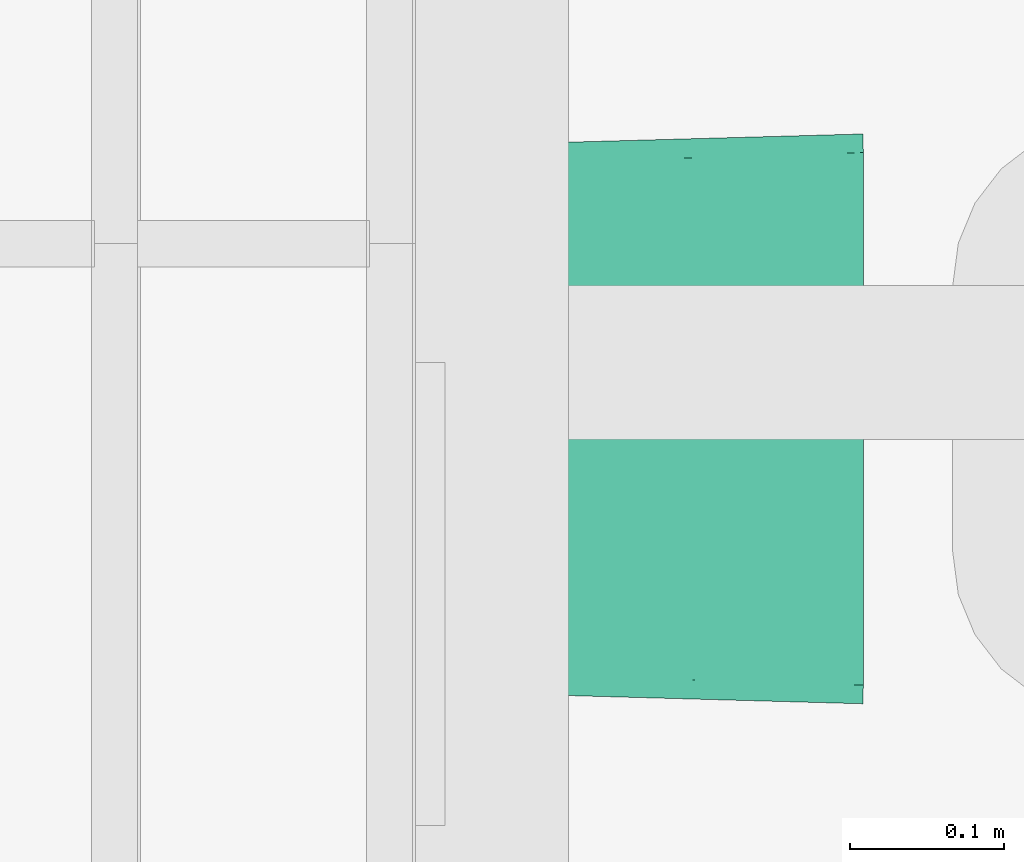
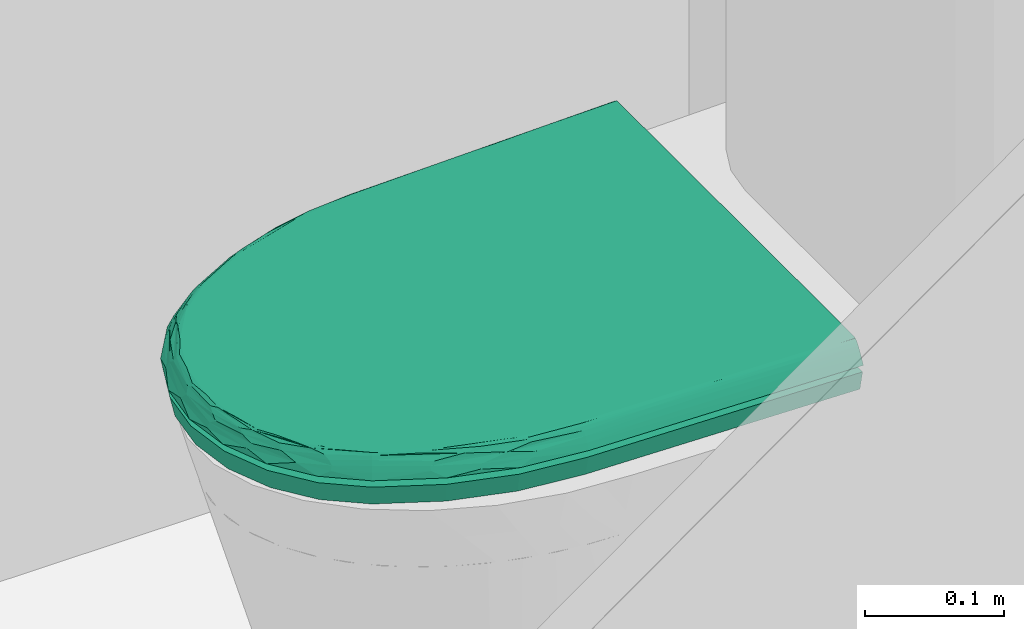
# One storey, part 62 of 75: 1 flow terminal.
"""IFC2X3 building model written with IfcOpenShell, lengths in metres."""

from ifc_helpers import new_model, entity, si_unit, converted_unit, derived_unit, direction, frame, origin, place, context, subcontext, project, spatial, faceted_brep, source, transform, mapped, material, type_object, type_shapes, element, save


model = new_model("IFC2X3")

# Units and contexts
model_context = context("Model", 3, precision=1e-05, world=origin(), true_north=direction((6.12303176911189e-17, 1.0)))
body_context = subcontext(model_context, "Body", "Model", "MODEL_VIEW")
ifc_project = project(units=[si_unit("LENGTHUNIT", "METRE"), si_unit("AREAUNIT", "SQUARE_METRE"), si_unit("VOLUMEUNIT", "CUBIC_METRE"), converted_unit("PLANEANGLEUNIT", "DEGREE", entity("IfcRatioMeasure", 0.0174532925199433), si_unit("PLANEANGLEUNIT", "RADIAN"), dimensions=[0, 0, 0, 0, 0, 0, 0]), si_unit("MASSUNIT", "GRAM", prefix="KILO"), derived_unit("MASSDENSITYUNIT", [(si_unit("MASSUNIT", "GRAM", prefix="KILO"), 1), (si_unit("LENGTHUNIT", "METRE"), -3)]), derived_unit("MOMENTOFINERTIAUNIT", [(si_unit("LENGTHUNIT", "METRE"), 4)]), si_unit("TIMEUNIT", "SECOND"), si_unit("FREQUENCYUNIT", "HERTZ"), si_unit("THERMODYNAMICTEMPERATUREUNIT", "DEGREE_CELSIUS"), derived_unit("THERMALTRANSMITTANCEUNIT", [(si_unit("MASSUNIT", "GRAM", prefix="KILO"), 1), (si_unit("THERMODYNAMICTEMPERATUREUNIT", "KELVIN"), -1), (si_unit("TIMEUNIT", "SECOND"), -3)]), derived_unit("VOLUMETRICFLOWRATEUNIT", [(si_unit("LENGTHUNIT", "METRE"), 3), (si_unit("TIMEUNIT", "SECOND"), -1)]), si_unit("ELECTRICCURRENTUNIT", "AMPERE"), si_unit("ELECTRICVOLTAGEUNIT", "VOLT"), si_unit("POWERUNIT", "WATT"), si_unit("FORCEUNIT", "NEWTON", prefix="KILO"), si_unit("ILLUMINANCEUNIT", "LUX"), si_unit("LUMINOUSFLUXUNIT", "LUMEN"), si_unit("LUMINOUSINTENSITYUNIT", "CANDELA"), derived_unit("USERDEFINED", [(si_unit("MASSUNIT", "GRAM", prefix="KILO"), -1), (si_unit("LENGTHUNIT", "METRE"), -2), (si_unit("TIMEUNIT", "SECOND"), 3), (si_unit("LUMINOUSFLUXUNIT", "LUMEN"), 1)]), derived_unit("LINEARVELOCITYUNIT", [(si_unit("LENGTHUNIT", "METRE"), 1), (si_unit("TIMEUNIT", "SECOND"), -1)]), si_unit("PRESSUREUNIT", "PASCAL"), derived_unit("USERDEFINED", [(si_unit("LENGTHUNIT", "METRE"), -2), (si_unit("MASSUNIT", "GRAM", prefix="KILO"), 1), (si_unit("TIMEUNIT", "SECOND"), -2)]), derived_unit("LINEARFORCEUNIT", [(si_unit("MASSUNIT", "GRAM", prefix="KILO"), 1), (si_unit("LENGTHUNIT", "METRE"), 1), (si_unit("TIMEUNIT", "SECOND"), -2), (si_unit("LENGTHUNIT", "METRE"), -1)]), derived_unit("PLANARFORCEUNIT", [(si_unit("MASSUNIT", "GRAM", prefix="KILO"), 1), (si_unit("LENGTHUNIT", "METRE"), 1), (si_unit("TIMEUNIT", "SECOND"), -2), (si_unit("LENGTHUNIT", "METRE"), -2)])], contexts=[model_context])

# Site, building, storey
site_placement = place(None, origin())
site = spatial("IfcSite", under=ifc_project, at=site_placement, Name="Superficie", CompositionType="ELEMENT")
building_placement = place(site_placement, origin())
building = spatial("IfcBuilding", under=site, at=building_placement, Name="Telegestiones", CompositionType="ELEMENT")
storey_placement = place(building_placement, origin())
storey = spatial("IfcBuildingStorey", under=building, at=storey_placement, Name="Nivel 0_NPT", CompositionType="ELEMENT", Elevation=0.0)

# Flow terminal
ifc_material = material(Name="Plastico - Ferrum - Urea - Blanco")
distribution_element_type = type_object("IfcDistributionElementType", Name="Inodoro-Ferrum-Marina-Tapa_y_Asiento:Tapa de Inodoro", material=ifc_material)
shared_shape = source(origin(), body_context, "Body", "Brep", [
    faceted_brep([(0.001595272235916, 0.456635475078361, 0.024059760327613), (0.00438804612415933, 0.456713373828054, 0.0292542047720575), (0.0069939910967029, 0.45678606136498, 0.0335042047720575), (0.00941310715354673, 0.456853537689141, 0.036809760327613), (0.0116453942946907, 0.456915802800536, 0.0391708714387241), (0.0136908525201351, 0.456972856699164, 0.0405875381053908), (0.0155494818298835, 0.457024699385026, 0.041059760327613), (0.0155494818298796, 0.457024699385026, 0.0240597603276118), (0.356866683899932, 0.457024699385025, 0.024059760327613), (0.356866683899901, 0.457024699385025, 0.041059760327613), (0.358725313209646, 0.456972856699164, 0.0405875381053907), (0.36077077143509, 0.456915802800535, 0.0391708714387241), (0.363003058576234, 0.456853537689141, 0.036809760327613), (0.365422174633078, 0.45678606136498, 0.0335042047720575), (0.368028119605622, 0.456713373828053, 0.0292542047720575), (0.370820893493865, 0.456635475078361, 0.024059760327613), (0.0165302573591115, 0.421862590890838, 0.041059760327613), (0.0178998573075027, 0.372760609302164, 0.041059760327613), (0.0198614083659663, 0.302436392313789, 0.041059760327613), (0.0218229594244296, 0.23211217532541, 0.0410597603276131), (0.027695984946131, 0.180536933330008, 0.0410597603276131), (0.0422596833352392, 0.130713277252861, 0.0410597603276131), (0.0650892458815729, 0.0840945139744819, 0.041059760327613), (0.0876065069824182, 0.055650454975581, 0.041059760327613), (0.116624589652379, 0.0338779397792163, 0.041059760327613), (0.150230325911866, 0.0202124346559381, 0.0410597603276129), (0.186208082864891, 0.0155549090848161, 0.0410597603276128), (0.222185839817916, 0.0202124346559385, 0.0410597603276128), (0.255791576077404, 0.0338779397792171, 0.0410597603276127), (0.284809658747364, 0.0556504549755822, 0.0410597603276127), (0.307326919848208, 0.0840945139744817, 0.0410597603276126), (0.330156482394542, 0.130713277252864, 0.0410597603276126), (0.34472018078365, 0.180536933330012, 0.0410597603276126), (0.350593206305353, 0.232112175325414, 0.0410597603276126), (0.351573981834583, 0.267274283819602, 0.041059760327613), (0.352943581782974, 0.316376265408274, 0.041059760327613), (0.354905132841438, 0.38670048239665, 0.041059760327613), (0.359621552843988, 0.29306195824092, 0.0352750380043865), (0.361625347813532, 0.274753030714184, 0.0314972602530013), (0.36307674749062, 0.326787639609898, 0.0314972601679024), (0.365222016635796, 0.403698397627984, 0.0314972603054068), (0.362298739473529, 0.389042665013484, 0.0352750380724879), (0.357834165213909, 0.389167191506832, 0.0399972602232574), (0.356913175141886, 0.410045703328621, 0.0408017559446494), (0.357025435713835, 0.344476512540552, 0.0396759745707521), (0.360402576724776, 0.404507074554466, 0.0381083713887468), (0.353536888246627, 0.291789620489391, 0.0408295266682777), (0.355341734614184, 0.299810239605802, 0.0399972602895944), (0.357035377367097, 0.283788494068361, 0.0381083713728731), (0.352451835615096, 0.232060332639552, 0.0405875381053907), (0.356729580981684, 0.231941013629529, 0.0368097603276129), (0.35449729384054, 0.232003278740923, 0.039170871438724), (0.365723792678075, 0.350304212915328, 0.028075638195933), (0.366508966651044, 0.302047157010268, 0.024059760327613), (0.368470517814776, 0.372371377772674, 0.024059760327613), (0.355332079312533, 0.348898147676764, 0.0407542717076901), (0.364180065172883, 0.300719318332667, 0.0283642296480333), (0.359148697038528, 0.231873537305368, 0.0335042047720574), (0.361754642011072, 0.231800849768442, 0.0292542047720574), (0.367244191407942, 0.398171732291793, 0.0277403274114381), (0.36964570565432, 0.414503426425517, 0.024059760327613), (0.360553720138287, 0.34106364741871, 0.0358205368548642), (0.358726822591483, 0.344429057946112, 0.0381083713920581), (0.364547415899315, 0.231722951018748, 0.024059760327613), (0.358404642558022, 0.177778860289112, 0.024059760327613), (0.34317203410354, 0.125666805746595, 0.024059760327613), (0.31929391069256, 0.076906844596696, 0.0240597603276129), (0.294551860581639, 0.0456524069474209, 0.0240597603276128), (0.262666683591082, 0.0217286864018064, 0.0240597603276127), (0.225740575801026, 0.00671297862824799, 0.0240597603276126), (0.18620808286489, 0.00159527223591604, 0.0240597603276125), (0.146675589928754, 0.00671297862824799, 0.0240597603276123), (0.109749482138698, 0.0217286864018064, 0.0240597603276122), (0.077864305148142, 0.0456524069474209, 0.0240597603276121), (0.0531222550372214, 0.0769068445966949, 0.024059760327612), (0.029244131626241, 0.125666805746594, 0.0240597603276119), (0.0140115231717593, 0.17777886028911, 0.0240597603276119), (0.00786874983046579, 0.231722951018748, 0.0240597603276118), (0.00669356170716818, 0.273855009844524, 0.024059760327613), (0.00551837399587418, 0.315987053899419, 0.024059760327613), (0.00355682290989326, 0.38631127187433, 0.024059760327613), (0.348766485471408, 0.19184404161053, 0.0405359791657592), (0.349863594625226, 0.189923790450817, 0.0396286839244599), (0.310675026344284, 0.0820835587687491, 0.039170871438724), (0.312589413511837, 0.0809337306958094, 0.0368097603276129), (0.339580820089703, 0.141992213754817, 0.0380822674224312), (0.316898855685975, 0.0783453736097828, 0.0292542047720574), (0.334448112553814, 0.116810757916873, 0.0324641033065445), (0.314664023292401, 0.0796876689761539, 0.0335042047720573), (0.351727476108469, 0.191045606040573, 0.0380922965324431), (0.350466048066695, 0.172235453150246, 0.035239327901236), (0.357674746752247, 0.188271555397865, 0.0289584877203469), (0.348361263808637, 0.152432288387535, 0.0307862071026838), (0.336324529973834, 0.116342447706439, 0.0292921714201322), (0.3340712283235, 0.120766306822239, 0.0352481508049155), (0.349702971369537, 0.149947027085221, 0.0272890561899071), (0.328370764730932, 0.122507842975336, 0.0407801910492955), (0.308920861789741, 0.0831371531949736, 0.0405875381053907), (0.340839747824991, 0.154630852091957, 0.0402739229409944), (0.326302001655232, 0.114016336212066, 0.039960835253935), (0.356097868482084, 0.191008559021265, 0.0323074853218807), (0.206137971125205, 0.00469480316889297, 0.0274750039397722), (0.0918736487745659, 0.0448195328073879, 0.0379312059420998), (0.0617411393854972, 0.0820835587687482, 0.0391708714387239), (0.0598267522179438, 0.0809337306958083, 0.0368097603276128), (0.271117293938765, 0.042209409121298, 0.0407977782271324), (0.242566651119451, 0.0257569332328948, 0.0407855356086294), (0.239485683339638, 0.0226589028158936, 0.0398351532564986), (0.281086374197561, 0.0481515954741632, 0.0399058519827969), (0.197949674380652, 0.0122613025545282, 0.0392893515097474), (0.20434819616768, 0.0150990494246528, 0.0407002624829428), (0.168067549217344, 0.0144776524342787, 0.0403940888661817), (0.170441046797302, 0.00822595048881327, 0.034090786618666), (0.166278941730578, 0.00570428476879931, 0.0292662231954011), (0.206136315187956, 0.00691960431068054, 0.0313090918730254), (0.127777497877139, 0.0157377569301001, 0.0287773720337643), (0.292755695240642, 0.0621048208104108, 0.0408263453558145), (0.0960686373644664, 0.043351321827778, 0.0393951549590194), (0.132914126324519, 0.0216644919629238, 0.0390716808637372), (0.101228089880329, 0.0411914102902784, 0.0403940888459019), (0.290126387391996, 0.0537118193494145, 0.0379796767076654), (0.279094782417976, 0.0365256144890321, 0.0300373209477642), (0.298002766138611, 0.0556782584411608, 0.0320683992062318), (0.294844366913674, 0.0552482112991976, 0.0351018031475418), (0.299417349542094, 0.0541811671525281, 0.0285967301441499), (0.127833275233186, 0.0186776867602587, 0.0332865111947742), (0.166466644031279, 0.0116486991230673, 0.037846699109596), (0.170334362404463, 0.0127334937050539, 0.0393546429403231), (0.244637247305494, 0.0158147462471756, 0.0289041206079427), (0.262322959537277, 0.0324450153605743, 0.0385687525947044), (0.0634953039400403, 0.0831371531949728, 0.0405875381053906), (0.0809354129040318, 0.0605511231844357, 0.0407924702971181), (0.0874076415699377, 0.0421879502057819, 0.0311281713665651), (0.0732843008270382, 0.0535465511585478, 0.0282099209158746), (0.0959605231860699, 0.0328608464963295, 0.0276535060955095), (0.0786474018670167, 0.0607623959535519, 0.0399426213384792), (0.132957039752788, 0.024235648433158, 0.0407002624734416), (0.0577521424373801, 0.0796876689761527, 0.0335042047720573), (0.0807690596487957, 0.0519072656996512, 0.0350760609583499), (0.132771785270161, 0.0192933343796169, 0.0366404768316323), (0.235685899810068, 0.0169871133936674, 0.0356307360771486), (0.266675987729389, 0.0315725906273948, 0.0348948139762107), (0.231657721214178, 0.0178496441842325, 0.038162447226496), (0.106545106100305, 0.0314888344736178, 0.035394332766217), (0.0555173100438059, 0.0783453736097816, 0.0292542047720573), (0.245448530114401, 0.0186226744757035, 0.0326873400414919), (0.204351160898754, 0.0105368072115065, 0.0368097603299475), (0.210021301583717, 0.00948524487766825, 0.0343542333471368), (0.0449403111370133, 0.119006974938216, 0.0405359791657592), (0.0429816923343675, 0.120034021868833, 0.0396286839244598), (0.0179188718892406, 0.232003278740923, 0.0391708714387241), (0.0156865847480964, 0.231941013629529, 0.036809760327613), (0.0258300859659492, 0.165957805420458, 0.0380822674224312), (0.0106615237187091, 0.231800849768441, 0.0292542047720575), (0.0165922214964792, 0.189939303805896, 0.0324641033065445), (0.0132674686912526, 0.231873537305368, 0.0335042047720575), (0.0420154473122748, 0.118084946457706, 0.0380922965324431), (0.0329472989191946, 0.134613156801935, 0.035239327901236), (0.0355103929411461, 0.117219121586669, 0.0289584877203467), (0.0240549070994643, 0.152432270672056, 0.0307862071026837), (0.0147589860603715, 0.189323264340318, 0.0292921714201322), (0.0190401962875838, 0.186809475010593, 0.0352481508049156), (0.0215858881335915, 0.153803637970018, 0.0272890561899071), (0.0247811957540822, 0.1884123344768, 0.0407801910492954), (0.019964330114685, 0.232060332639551, 0.0405875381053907), (0.0315764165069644, 0.154630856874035, 0.0402739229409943), (0.0219508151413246, 0.196681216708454, 0.039960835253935), (0.0383131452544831, 0.115762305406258, 0.0323074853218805), (0.00993267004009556, 0.395666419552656, 0.0352750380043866), (0.00691140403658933, 0.413835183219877, 0.0314972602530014), (0.00836280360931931, 0.361800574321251, 0.0314972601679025), (0.0170744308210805, 0.299810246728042, 0.0399972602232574), (0.0191578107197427, 0.279015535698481, 0.0408017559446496), (0.0153907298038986, 0.344476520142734, 0.0396759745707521), (0.0153650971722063, 0.284351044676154, 0.0381083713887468), (0.0159369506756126, 0.397275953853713, 0.0408295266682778), (0.0126098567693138, 0.299685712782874, 0.0352750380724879), (0.0145820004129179, 0.389167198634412, 0.0399972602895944), (0.0119978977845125, 0.40506962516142, 0.0381083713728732), (0.0070307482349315, 0.338173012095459, 0.0280756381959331), (0.0105080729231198, 0.284889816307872, 0.0314972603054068), (0.0173279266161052, 0.340156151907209, 0.0407542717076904), (0.00580808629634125, 0.387766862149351, 0.0283642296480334), (0.00818097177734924, 0.290295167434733, 0.027740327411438), (0.0116776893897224, 0.347687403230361, 0.0358205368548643), (0.0136893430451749, 0.344429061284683, 0.0381083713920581)], [[[0, 1, 2, 3, 4, 5, 6, 7]], [[8, 9, 10, 11, 12, 13, 14, 15]], [[6, 16, 17, 18, 19, 20, 21, 22, 23, 24, 25, 26, 27, 28, 29, 30, 31, 32, 33, 34, 35, 36, 9]], [[6, 9, 8, 7]], [[37, 38, 39]], [[40, 41, 39]], [[42, 10, 43]], [[44, 45, 42]], [[45, 12, 11]], [[34, 46, 35]], [[10, 9, 43]], [[13, 12, 41]], [[47, 48, 44]], [[46, 34, 49]], [[50, 37, 48]], [[49, 51, 47]], [[51, 50, 48]], [[52, 53, 54]], [[14, 13, 40]], [[55, 43, 36]], [[52, 56, 53]], [[11, 10, 42]], [[50, 57, 37]], [[42, 45, 11]], [[38, 57, 58]], [[38, 58, 56]], [[59, 60, 14]], [[46, 47, 55]], [[13, 41, 40]], [[37, 39, 61]], [[41, 45, 62]], [[63, 56, 58]], [[62, 61, 41]], [[54, 59, 52]], [[12, 45, 41]], [[44, 48, 62, 45]], [[51, 48, 47]], [[62, 48, 61]], [[57, 38, 37]], [[39, 38, 56]], [[52, 39, 56]], [[63, 53, 56]], [[52, 40, 39]], [[40, 52, 59]], [[59, 14, 40]], [[34, 33, 49]], [[15, 14, 60]], [[59, 54, 60]], [[35, 46, 55]], [[47, 46, 49]], [[35, 55, 36]], [[44, 42, 55]], [[47, 44, 55]], [[42, 43, 55]], [[36, 43, 9]], [[41, 61, 39]], [[37, 61, 48]], [[8, 15, 60, 54, 53, 63, 64, 65, 66, 67, 68, 69, 70, 71, 72, 73, 74, 75, 76, 77, 78, 79, 80, 0, 7]], [[81, 82, 49]], [[83, 84, 85]], [[32, 81, 33]], [[86, 87, 88]], [[89, 90, 50]], [[89, 82, 85]], [[58, 91, 63]], [[90, 89, 85]], [[92, 87, 93]], [[87, 94, 88]], [[90, 57, 50]], [[95, 91, 92]], [[51, 89, 50]], [[85, 94, 90]], [[32, 31, 96]], [[90, 87, 92]], [[30, 97, 96]], [[33, 81, 49]], [[81, 98, 82]], [[99, 98, 96]], [[91, 100, 92]], [[99, 85, 98]], [[87, 86, 93]], [[94, 87, 90]], [[91, 58, 100]], [[84, 88, 94]], [[66, 65, 93]], [[92, 93, 95]], [[82, 89, 51]], [[85, 84, 94]], [[85, 82, 98]], [[96, 31, 30]], [[32, 98, 81]], [[49, 82, 51]], [[66, 93, 86]], [[95, 93, 65]], [[65, 64, 95]], [[64, 63, 91]], [[64, 91, 95]], [[100, 58, 57]], [[57, 90, 100]], [[90, 92, 100]], [[99, 97, 83]], [[32, 96, 98]], [[97, 99, 96]], [[85, 99, 83]], [[69, 101, 70]], [[102, 103, 104]], [[105, 29, 28]], [[105, 106, 107]], [[105, 107, 108]], [[109, 110, 111]], [[111, 110, 26]], [[112, 113, 114]], [[71, 115, 72]], [[116, 30, 29]], [[117, 118, 119]], [[108, 83, 97]], [[84, 83, 120]], [[67, 121, 68]], [[122, 88, 123]], [[86, 124, 66]], [[26, 110, 27]], [[120, 83, 108]], [[113, 112, 125]], [[88, 122, 86]], [[126, 109, 127]], [[84, 123, 88]], [[128, 69, 68]], [[68, 121, 128]], [[111, 26, 25]], [[106, 110, 107]], [[70, 113, 71]], [[122, 124, 86]], [[108, 129, 120]], [[109, 107, 110]], [[22, 130, 131]], [[132, 133, 134]], [[117, 119, 135]], [[119, 136, 24]], [[24, 23, 119]], [[118, 111, 136]], [[105, 116, 29]], [[137, 138, 104]], [[115, 132, 134]], [[112, 126, 139]], [[138, 137, 132]], [[103, 135, 130]], [[115, 71, 113]], [[101, 113, 70]], [[74, 73, 133]], [[140, 141, 129]], [[142, 140, 129]], [[143, 125, 139]], [[144, 133, 137]], [[138, 143, 102]], [[133, 132, 137]], [[25, 24, 136]], [[141, 140, 145]], [[130, 135, 131]], [[127, 118, 126]], [[109, 146, 142]], [[118, 136, 119]], [[111, 25, 136]], [[143, 132, 125]], [[102, 104, 138]], [[129, 108, 107]], [[123, 120, 141]], [[145, 121, 141]], [[101, 128, 114]], [[147, 112, 114]], [[126, 146, 109]], [[113, 125, 115]], [[132, 115, 125]], [[139, 126, 118]], [[112, 146, 126]], [[120, 123, 84]], [[122, 141, 121]], [[102, 139, 118]], [[112, 139, 125]], [[105, 28, 106]], [[116, 108, 97]], [[28, 27, 106]], [[110, 106, 27]], [[142, 129, 107]], [[141, 120, 129]], [[109, 142, 107]], [[142, 146, 140]], [[146, 147, 140]], [[145, 114, 128]], [[145, 140, 147]], [[121, 145, 128]], [[108, 116, 105]], [[30, 116, 97]], [[102, 135, 103]], [[131, 119, 23]], [[119, 131, 135]], [[22, 131, 23]], [[141, 122, 123]], [[122, 121, 124]], [[121, 67, 124]], [[66, 124, 67]], [[102, 143, 139]], [[132, 143, 138]], [[112, 147, 146]], [[145, 147, 114]], [[135, 102, 117]], [[118, 117, 102]], [[128, 101, 69]], [[113, 101, 114]], [[74, 133, 144]], [[134, 73, 72]], [[73, 134, 133]], [[115, 134, 72]], [[109, 111, 127]], [[118, 127, 111]], [[148, 149, 130]], [[150, 151, 152]], [[21, 148, 22]], [[153, 154, 155]], [[156, 157, 104]], [[156, 149, 152]], [[144, 158, 74]], [[157, 156, 152]], [[159, 154, 160]], [[154, 161, 155]], [[157, 137, 104]], [[162, 158, 159]], [[103, 156, 104]], [[152, 161, 157]], [[21, 20, 163]], [[157, 154, 159]], [[19, 164, 163]], [[22, 148, 130]], [[148, 165, 149]], [[166, 165, 163]], [[158, 167, 159]], [[166, 152, 165]], [[154, 153, 160]], [[161, 154, 157]], [[158, 144, 167]], [[151, 155, 161]], [[77, 76, 160]], [[159, 160, 162]], [[149, 156, 103]], [[152, 151, 161]], [[152, 149, 165]], [[163, 20, 19]], [[21, 165, 148]], [[130, 149, 103]], [[77, 160, 153]], [[162, 160, 76]], [[76, 75, 162]], [[75, 74, 158]], [[75, 158, 162]], [[167, 144, 137]], [[137, 157, 167]], [[157, 159, 167]], [[166, 164, 150]], [[21, 163, 165]], [[164, 166, 163]], [[152, 166, 150]], [[168, 169, 170]], [[171, 164, 172]], [[173, 174, 171]], [[174, 151, 150]], [[16, 175, 17]], [[164, 19, 172]], [[155, 151, 176]], [[177, 178, 173]], [[175, 16, 5]], [[3, 168, 178]], [[5, 4, 177]], [[4, 3, 178]], [[179, 80, 79]], [[153, 155, 180]], [[181, 172, 18]], [[179, 182, 80]], [[150, 164, 171]], [[3, 2, 168]], [[171, 174, 150]], [[169, 2, 1]], [[169, 1, 182]], [[183, 78, 153]], [[175, 177, 181]], [[155, 176, 180]], [[168, 170, 184]], [[176, 174, 185]], [[0, 182, 1]], [[185, 184, 176]], [[79, 183, 179]], [[180, 176, 170]], [[151, 174, 176]], [[173, 178, 185, 174]], [[4, 178, 177]], [[185, 178, 184]], [[2, 169, 168]], [[170, 169, 182]], [[179, 170, 182]], [[0, 80, 182]], [[179, 180, 170]], [[180, 179, 183]], [[183, 153, 180]], [[16, 6, 5]], [[77, 153, 78]], [[183, 79, 78]], [[17, 175, 181]], [[177, 175, 5]], [[17, 181, 18]], [[173, 171, 181]], [[177, 173, 181]], [[171, 172, 181]], [[18, 172, 19]], [[176, 184, 170]], [[168, 184, 178]]]),
    faceted_brep([(0.356866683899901, 0.457024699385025, 0.017550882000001), (0.369571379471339, 0.456670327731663, 0.0175508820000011), (0.365620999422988, 0.456780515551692, 0.0), (0.356866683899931, 0.457024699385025, 0.0), (0.0155494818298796, 0.457024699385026, 0.0175508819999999), (0.00284478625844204, 0.456670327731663, 0.0175508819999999), (0.00911826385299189, 0.231757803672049, 0.0175508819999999), (0.0152368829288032, 0.178025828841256, 0.0175508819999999), (0.0304095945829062, 0.126118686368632, 0.017550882), (0.0541938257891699, 0.0775504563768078, 0.0175508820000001), (0.0787366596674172, 0.0465476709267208, 0.0175508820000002), (0.110365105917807, 0.0228165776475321, 0.0175508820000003), (0.146993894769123, 0.00792177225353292, 0.0175508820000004), (0.18620808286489, 0.00284527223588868, 0.0175508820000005), (0.225422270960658, 0.00792177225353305, 0.0175508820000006), (0.262051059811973, 0.0228165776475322, 0.0175508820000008), (0.293679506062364, 0.0465476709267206, 0.0175508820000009), (0.31822233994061, 0.0775504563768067, 0.017550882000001), (0.342006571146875, 0.126118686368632, 0.017550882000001), (0.357179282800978, 0.178025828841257, 0.0175508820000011), (0.363297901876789, 0.231757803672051, 0.0175508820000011), (0.359347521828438, 0.231867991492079, 0.0), (0.353305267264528, 0.178806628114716, 0.0), (0.338321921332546, 0.127547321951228, 0.0), (0.314834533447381, 0.0795852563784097, 0.0), (0.290921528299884, 0.0493780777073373, 0.0), (0.260104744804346, 0.0262559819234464, 0.0), (0.224415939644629, 0.0117434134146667, 0.0), (0.18620808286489, 0.00679718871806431, 0.0), (0.148000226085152, 0.0117434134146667, 0.0), (0.112311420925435, 0.0262559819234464, 0.0), (0.0814946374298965, 0.0493780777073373, 0.0), (0.0575816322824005, 0.0795852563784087, 0.0), (0.0340942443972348, 0.127547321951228, 0.0), (0.0191108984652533, 0.178806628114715, 0.0), (0.0130686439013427, 0.23186799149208, 0.0), (0.00679516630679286, 0.456780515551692, 0.0), (0.0155494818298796, 0.457024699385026, 0.0)], [[[0, 1, 2, 3]], [[4, 5, 6, 7, 8, 9, 10, 11, 12, 13, 14, 15, 16, 17, 18, 19, 20, 1, 0]], [[2, 1, 20, 21]], [[3, 2, 21, 22, 23, 24, 25, 26, 27, 28, 29, 30, 31, 32, 33, 34, 35, 36, 37]], [[20, 19, 22, 21]], [[19, 18, 23, 22]], [[18, 17, 24, 23]], [[24, 17, 16, 25]], [[16, 15, 26, 25]], [[14, 27, 26, 15]], [[27, 14, 13, 28]], [[12, 11, 30, 29]], [[11, 10, 31, 30]], [[32, 31, 10, 9]], [[28, 13, 12, 29]], [[9, 8, 33, 32]], [[8, 7, 34, 33]], [[7, 6, 35, 34]], [[37, 36, 5, 4]], [[35, 6, 5, 36]], [[3, 37, 4, 0]]]),
])
type_shapes(distribution_element_type, [shared_shape])
flow_terminal_placement = place(storey_placement, frame((4.65842239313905, -3.50668468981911, 0.424820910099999), z_axis=(0.0, 0.0, 1.0), x_axis=(0.0, -1.0, 0.0)))
element("IfcFlowTerminal", 1, at=flow_terminal_placement, inside=storey, type_object=distribution_element_type, material=ifc_material, Name="Inodoro-Ferrum-Marina-Tapa_y_Asiento:Tapa de Inodoro", ObjectType="Inodoro-Ferrum-Marina-Tapa_y_Asiento:Tapa de Inodoro", context=body_context, shape_type="MappedRepresentation", body=[
    mapped(shared_shape, transform((0.0, 0.0, 0.0), scale=1.0)),
])

save(model, "model.ifc")
